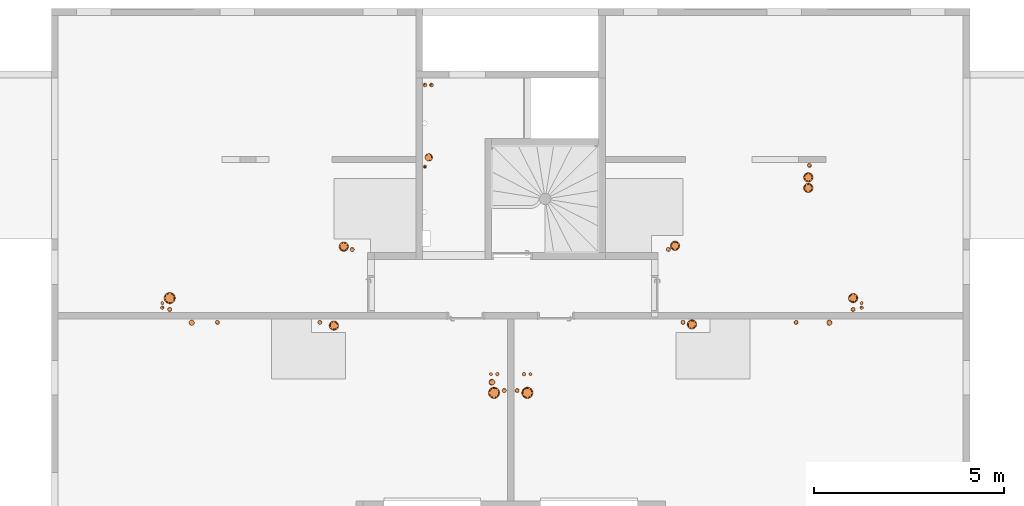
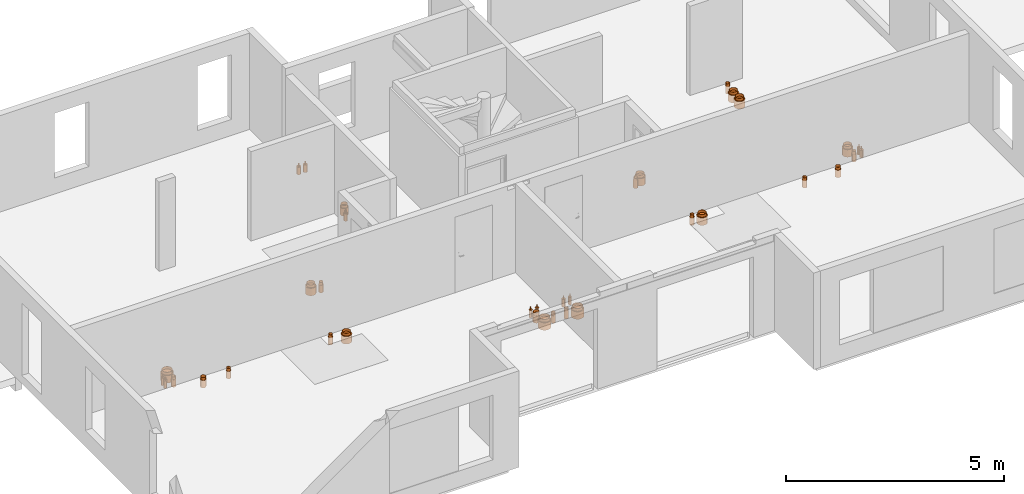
# One storey, part 21 of 24: 36 proxies.
"""IFC2X3 building model written with IfcOpenShell, lengths in centimetres."""

import ifcopenshell
import ifcopenshell.guid

model = None  # the IFC model being written
_history = None  # IfcOwnerHistory: only IFC2X3 demands one
_inside = {}  # id of a spatial element -> (the spatial element, [elements in it])
_under = {}  # id of a project, library or spatial element -> (it, [spatial elements below it])
_declared = {}  # id of a project -> (the project, [libraries it declares])
_typed = {}  # id of a type object -> (the type object, [elements of that type])
_made_of = {}  # id of a material, layer set ... -> (it, [elements and type objects made of it])


def new_model(schema):
    """Start an empty IFC model of exactly this schema.

    Asked for "IFC4X3", IfcOpenShell would pick the latest addendum, in which some entities
    have other attributes; the version numbers below select the first issue.
    IFC2X3 requires an IfcOwnerHistory on every rooted entity: one is made here for all.
    """
    global model, _history
    if schema == "IFC4X3":
        model = ifcopenshell.file(schema_version=(4, 3, 0, 0))
    else:
        model = ifcopenshell.file(schema=schema)
    _inside.clear()
    _under.clear()
    _declared.clear()
    _typed.clear()
    _made_of.clear()
    _history = None
    if model.schema == "IFC2X3":
        org = make("IfcOrganization", Name="unknown")
        user = make(
            "IfcPersonAndOrganization",
            ThePerson=make("IfcPerson", FamilyName="unknown"),
            TheOrganization=org,
        )
        app = make(
            "IfcApplication",
            ApplicationDeveloper=org,
            Version="unknown",
            ApplicationFullName="unknown",
            ApplicationIdentifier="unknown",
        )
        _history = make(
            "IfcOwnerHistory",
            OwningUser=user,
            OwningApplication=app,
            ChangeAction="ADDED",
            CreationDate=0,
        )
    return model


def make(cls, **values):
    """One entity of the class cls with the attributes given. An attribute that is None is left unset."""
    return model.create_entity(
        cls, **{name: value for name, value in values.items() if value is not None}
    )


def entity(cls, *values):
    """Any entity or typed value of the class cls, its attributes in the order of the schema. None: left unset."""
    e = model.create_entity(cls)
    for i, value in enumerate(values):
        if value is not None:
            e[i] = value
    return e


def rooted(cls, **values):
    """An entity with a GlobalId (a new one), such as an element, a storey or a relation."""
    return make(cls, GlobalId=ifcopenshell.guid.new(), OwnerHistory=_history, **values)


def si_unit(unit_type, name, prefix=None):
    """IfcSIUnit, for example si_unit("LENGTHUNIT", "METRE", prefix="MILLI")."""
    return make("IfcSIUnit", UnitType=unit_type, Prefix=prefix, Name=name)


def converted_unit(unit_type, name, factor, base, dimensions=None, offset=None):
    """IfcConversionBasedUnit, such as the inch: factor (a typed value) times the base unit."""
    return make(
        "IfcConversionBasedUnit"
        if offset is None
        else "IfcConversionBasedUnitWithOffset",
        ConversionOffset=offset,
        Dimensions=None
        if dimensions is None
        else entity("IfcDimensionalExponents", *dimensions),
        UnitType=unit_type,
        Name=name,
        ConversionFactor=make(
            "IfcMeasureWithUnit", ValueComponent=factor, UnitComponent=base
        ),
    )


def derived_unit(unit_type, elements):
    """IfcDerivedUnit: a product of units, each with its exponent."""
    return make(
        "IfcDerivedUnit",
        Elements=[
            make("IfcDerivedUnitElement", Unit=unit, Exponent=power)
            for unit, power in elements
        ],
        UnitType=unit_type,
    )


def assignment(units):
    """IfcUnitAssignment: the units of a project."""
    return None if units is None else make("IfcUnitAssignment", Units=units)


def point(xyz):
    """IfcCartesianPoint."""
    return None if xyz is None else make("IfcCartesianPoint", Coordinates=xyz)


def direction(xyz):
    """IfcDirection."""
    return None if xyz is None else make("IfcDirection", DirectionRatios=xyz)


def frame(location, z_axis=None, x_axis=None):
    """IfcAxis2Placement3D, a coordinate frame: its origin and axes. An axis left out is left unset."""
    return make(
        "IfcAxis2Placement3D",
        Location=point(location),
        Axis=direction(z_axis),
        RefDirection=direction(x_axis),
    )


def frame_2d(location, x_axis=None):
    """IfcAxis2Placement2D, a coordinate frame in the plane: its origin and x axis."""
    return make(
        "IfcAxis2Placement2D", Location=point(location), RefDirection=direction(x_axis)
    )


def origin():
    """The frame at (0, 0, 0) with its axes left unset."""
    return frame((0.0, 0.0, 0.0))


def place(relative_to, where):
    """IfcLocalPlacement: puts the frame where relative to a parent placement (None: the world)."""
    return make(
        "IfcLocalPlacement", PlacementRelTo=relative_to, RelativePlacement=where
    )


def context(
    kind, dimensions, precision=None, world=None, true_north=None, identifier=None
):
    """IfcGeometricRepresentationContext, for example the 3D "Model" context."""
    return make(
        "IfcGeometricRepresentationContext",
        ContextIdentifier=identifier,
        ContextType=kind,
        CoordinateSpaceDimension=dimensions,
        Precision=precision,
        WorldCoordinateSystem=world,
        TrueNorth=true_north,
    )


def subcontext(parent, identifier, kind, view, scale=None):
    """IfcGeometricRepresentationSubContext, for example "Body" below "Model"."""
    return make(
        "IfcGeometricRepresentationSubContext",
        ContextIdentifier=identifier,
        ContextType=kind,
        ParentContext=parent,
        TargetScale=scale,
        TargetView=view,
    )


def project(units=None, contexts=None):
    """IfcProject with its units and contexts."""
    return rooted(
        "IfcProject",
        Name="project",
        RepresentationContexts=contexts,
        UnitsInContext=assignment(units),
    )


def spatial(cls, under=None, at=None, **own):
    """A site, building, storey or space (cls), placed at a placement, below another one or the project."""
    s = rooted(cls, ObjectPlacement=at, **own)
    if under is not None:
        _under.setdefault(under.id(), (under, []))[1].append(s)
    return s


def profile(cls, at=None, kind="AREA", **sizes):
    """A parametric profile (cls). Its sizes go by their IFC names, for example OverallWidth=200.0."""
    return make(cls, ProfileType=kind, Position=at, **sizes)


def circle(**sizes):
    """IfcCircleProfileDef."""
    return profile("IfcCircleProfileDef", **sizes)


def hollow_circle(**sizes):
    """IfcCircleHollowProfileDef."""
    return profile("IfcCircleHollowProfileDef", **sizes)


def extrude(swept, where, along, depth):
    """IfcExtrudedAreaSolid: the profile swept, set in the frame where, extruded along a direction by depth."""
    return make(
        "IfcExtrudedAreaSolid",
        SweptArea=swept,
        Position=where,
        ExtrudedDirection=direction(along),
        Depth=depth,
    )


def shape(context_of_items, identifier, shape_type, items):
    """IfcShapeRepresentation: the items that make up one representation, for example the "Body"."""
    return make(
        "IfcShapeRepresentation",
        ContextOfItems=context_of_items,
        RepresentationIdentifier=identifier,
        RepresentationType=shape_type,
        Items=items,
    )


def source(mapping_origin, context_of_items, identifier, shape_type, items):
    """IfcRepresentationMap: a shape defined once, which mapped items show again and again."""
    return make(
        "IfcRepresentationMap",
        MappingOrigin=mapping_origin,
        MappedRepresentation=shape(context_of_items, identifier, shape_type, items),
    )


def transform(
    local_origin,
    x_axis=None,
    y_axis=None,
    z_axis=None,
    scale=None,
    scale2=None,
    scale3=None,
    uniform=True,
):
    """IfcCartesianTransformationOperator3D, or its non-uniform kind. x_axis, y_axis, z_axis: its Axis1, 2, 3."""
    if uniform:
        return make(
            "IfcCartesianTransformationOperator3D",
            Axis1=direction(x_axis),
            Axis2=direction(y_axis),
            LocalOrigin=point(local_origin),
            Scale=scale,
            Axis3=direction(z_axis),
        )
    return make(
        "IfcCartesianTransformationOperator3DnonUniform",
        Axis1=direction(x_axis),
        Axis2=direction(y_axis),
        LocalOrigin=point(local_origin),
        Scale=scale,
        Axis3=direction(z_axis),
        Scale2=scale2,
        Scale3=scale3,
    )


def mapped(mapping_source, mapping_target):
    """IfcMappedItem: shows the shape of a source again, moved by a transform."""
    return make(
        "IfcMappedItem", MappingSource=mapping_source, MappingTarget=mapping_target
    )


def material(Name=None, Category=None):
    """IfcMaterial."""
    return make("IfcMaterial", Name=Name, Category=Category)


def made_of(thing, what):
    """Note that an element or type object is made of a material, layer set ...; save() writes the relation."""
    if what is not None:
        _made_of.setdefault(what.id(), (what, []))[1].append(thing)
    return thing


def type_object(cls, material=None, **own):
    """A type object (cls), such as IfcWallType, which elements share."""
    return made_of(rooted(cls, **own), material)


def type_shapes(of_type, sources):
    """Give a type object the sources (RepresentationMaps) that its elements show as mapped items."""
    of_type.RepresentationMaps = sources


def element(
    cls,
    number,
    at=None,
    inside=None,
    cuts=None,
    type_object=None,
    material=None,
    context=None,
    identifier="Body",
    shape_type=None,
    held_by="IfcProductDefinitionShape",
    body=None,
    shapes=None,
    **own,
):
    """One element of the class cls, such as IfcWall. Its Tag is "e" and its number.

    at: its placement. inside: the storey or other place that contains it. cuts: it is an
    opening in that element (IfcRelVoidsElement). A single representation is given by context,
    identifier, shape_type and body (its items); several are given by shapes. held_by: the class
    of the entity that holds the representations. save() writes the other relations.
    """
    e = rooted(cls, Tag="e%d" % number, ObjectPlacement=at, **own)
    if body is not None:
        shapes = [shape(context, identifier, shape_type, body)]
    if shapes is not None:
        e.Representation = make(held_by, Representations=shapes)
    if inside is not None:
        _inside.setdefault(inside.id(), (inside, []))[1].append(e)
    if cuts is not None:
        rooted(
            "IfcRelVoidsElement", RelatingBuildingElement=cuts, RelatedOpeningElement=e
        )
    if type_object is not None:
        _typed.setdefault(type_object.id(), (type_object, []))[1].append(e)
    return made_of(e, material)


def aggregate(whole, parts):
    """IfcRelAggregates: a whole, such as a stair, and the parts it consists of."""
    return rooted("IfcRelAggregates", RelatingObject=whole, RelatedObjects=parts)


def save(model, path):
    """Write the relations noted so far, then the file.

    IfcRelAggregates (storeys below a building ...), IfcRelContainedInSpatialStructure (elements
    in a storey), IfcRelDefinesByType, IfcRelAssociatesMaterial and IfcRelDeclares: one each for
    every whole, place, type object, material and project.
    """
    for whole, parts in _under.values():
        aggregate(whole, parts)
    for where, things in _inside.values():
        rooted(
            "IfcRelContainedInSpatialStructure",
            RelatedElements=things,
            RelatingStructure=where,
        )
    for kind, things in _typed.values():
        rooted("IfcRelDefinesByType", RelatedObjects=things, RelatingType=kind)
    for what, things in _made_of.values():
        rooted("IfcRelAssociatesMaterial", RelatedObjects=things, RelatingMaterial=what)
    for by, libraries in _declared.values():
        rooted("IfcRelDeclares", RelatingContext=by, RelatedDefinitions=libraries)
    model.write(path)


model = new_model("IFC2X3")

# Units and contexts
model_context = context("Model", 3, precision=0.001, world=origin(), true_north=direction((6.12303176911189e-17, 1.0)))
body_context = subcontext(model_context, "Body", "Model", "MODEL_VIEW")
ifc_project = project(units=[si_unit("LENGTHUNIT", "METRE", prefix="CENTI"), si_unit("AREAUNIT", "SQUARE_METRE"), si_unit("VOLUMEUNIT", "CUBIC_METRE"), converted_unit("PLANEANGLEUNIT", "DEGREE", entity("IfcRatioMeasure", 0.0174532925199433), si_unit("PLANEANGLEUNIT", "RADIAN"), dimensions=[0, 0, 0, 0, 0, 0, 0]), si_unit("MASSUNIT", "GRAM", prefix="KILO"), derived_unit("MASSDENSITYUNIT", [(si_unit("MASSUNIT", "GRAM", prefix="KILO"), 1), (si_unit("LENGTHUNIT", "METRE"), -3)]), si_unit("TIMEUNIT", "SECOND"), si_unit("FREQUENCYUNIT", "HERTZ"), si_unit("THERMODYNAMICTEMPERATUREUNIT", "DEGREE_CELSIUS"), derived_unit("THERMALTRANSMITTANCEUNIT", [(si_unit("MASSUNIT", "GRAM", prefix="KILO"), 1), (si_unit("THERMODYNAMICTEMPERATUREUNIT", "KELVIN"), -1), (si_unit("TIMEUNIT", "SECOND"), -3)]), derived_unit("VOLUMETRICFLOWRATEUNIT", [(si_unit("LENGTHUNIT", "METRE"), 3), (si_unit("TIMEUNIT", "SECOND"), -1)]), si_unit("ELECTRICCURRENTUNIT", "AMPERE"), si_unit("ELECTRICVOLTAGEUNIT", "VOLT"), si_unit("POWERUNIT", "WATT"), si_unit("FORCEUNIT", "NEWTON"), si_unit("ILLUMINANCEUNIT", "LUX"), si_unit("LUMINOUSFLUXUNIT", "LUMEN"), si_unit("LUMINOUSINTENSITYUNIT", "CANDELA"), derived_unit("USERDEFINED", [(si_unit("MASSUNIT", "GRAM", prefix="KILO"), -1), (si_unit("LENGTHUNIT", "METRE"), -2), (si_unit("TIMEUNIT", "SECOND"), 3), (si_unit("LUMINOUSFLUXUNIT", "LUMEN"), 1)]), derived_unit("LINEARVELOCITYUNIT", [(si_unit("LENGTHUNIT", "METRE"), 1), (si_unit("TIMEUNIT", "SECOND"), -1)]), si_unit("PRESSUREUNIT", "PASCAL"), derived_unit("USERDEFINED", [(si_unit("LENGTHUNIT", "METRE"), -2), (si_unit("MASSUNIT", "GRAM", prefix="KILO"), 1), (si_unit("TIMEUNIT", "SECOND"), -2)])], contexts=[model_context])

# Site, building, storey
site_placement = place(None, origin())
site = spatial("IfcSite", under=ifc_project, at=site_placement, Name="Default", CompositionType="ELEMENT")
building_placement = place(site_placement, origin())
building = spatial("IfcBuilding", under=site, at=building_placement, Name="CAGE 03", CompositionType="ELEMENT")
storey_placement = place(building_placement, frame((0.0, 0.0, 880.0)))
storey = spatial("IfcBuildingStorey", under=building, at=storey_placement, Name="R+3", CompositionType="ELEMENT", Elevation=880.0)

# Proxies
ifc_material_1 = material(Name="Conduit EU")
building_element_proxy_type_1 = type_object("IfcBuildingElementProxyType", Name="CFO125 P110", PredefinedType="NOTDEFINED", material=ifc_material_1)
shared_shape_1 = source(origin(), body_context, "Body", "SweptSolid", [
    extrude(circle(Radius=5.5, at=frame_2d((0.0, -8.88549515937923e-15), x_axis=(1.0, 0.0))), frame((0.0, 0.0, -21.0)), (0.0, 0.0, 1.0), 21.0),
    extrude(hollow_circle(Radius=5.0, WallThickness=0.25, at=frame_2d((0.0, -8.07772287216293e-15), x_axis=(1.0, 0.0))), frame((0.0, 0.0, -21.0)), (0.0, 0.0, 1.0), 28.5),
])
type_shapes(building_element_proxy_type_1, [shared_shape_1])
for number, where, name in (
    (1, (7497.12477094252, 4658.66060908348, -4.4699953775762e-07), "Galette - Résa - PVC2:CFO125 P110"),
    (2, (7869.14720305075, 4880.10916521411, -4.4699953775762e-07), "Galette - Résa - PVC2:CFO125 P110"),
    (3, (7984.4508715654, 4500.32488712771, -4.4699953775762e-07), "Galette - Résa - PVC2:CFO125 P110"),
    (4, (7535.77855002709, 4466.36505499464, -4.4699953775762e-07), "Galette - Résa - PVC2:CFO125 P110"),
    (5, (7833.87946784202, 4466.32821753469, -4.4699953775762e-07), "Galette - Résa - PVC2:CFO125 P110"),
    (6, (7098.50805140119, 4286.58036411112, -4.4699953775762e-07), "Galette - Résa - PVC2:CFO125 P110"),
    (7, (7064.37018928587, 4286.58443855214, -4.4699953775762e-07), "Galette - Résa - PVC2:CFO125 P110"),
    (8, (6578.06629120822, 4466.41087994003, -4.4699953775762e-07), "Galette - Résa - PVC2:CFO125 P110"),
    (9, (6308.05703024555, 4466.34830105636, -4.4699953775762e-07), "Galette - Résa - PVC2:CFO125 P110"),
    (10, (6182.19149689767, 4500.35421277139, -4.4699953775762e-07), "Galette - Résa - PVC2:CFO125 P110"),
    (11, (6663.71163151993, 4658.39319282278, -4.4699953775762e-07), "Galette - Résa - PVC2:CFO125 P110"),
):
    element("IfcBuildingElementProxy", number, at=place(storey_placement, frame(where)), inside=storey, type_object=building_element_proxy_type_1, material=ifc_material_1, Name=name, ObjectType="CFO125 P110", context=body_context, shape_type="MappedRepresentation", body=[
        mapped(shared_shape_1, transform((0.0, 0.0, 0.0), scale=1.0)),
    ])
ifc_material_2 = material(Name="Conduit VMC")
building_element_proxy_type_2 = type_object("IfcBuildingElementProxyType", Name="CFO235 P210", PredefinedType="NOTDEFINED", material=ifc_material_2)
shared_shape_2 = source(origin(), body_context, "Body", "SweptSolid", [
    extrude(circle(Radius=12.5, at=frame_2d((0.0, -2.01943071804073e-14), x_axis=(1.0, 0.0))), frame((0.0, 0.0, -21.0)), (0.0, 0.0, 1.0), 21.0),
    extrude(hollow_circle(Radius=10.0, WallThickness=0.5, at=frame_2d((0.0, -1.61554457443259e-14), x_axis=(1.0, 0.0))), frame((0.0, 0.0, -21.0)), (0.0, 0.0, 1.0), 28.5),
])
type_shapes(building_element_proxy_type_2, [shared_shape_2])
for number, where, name in (
    (12, (7514.74923080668, 4668.31646675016, -4.4699953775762e-07), "Galette - Résa - PVC2:CFO235 P210"),
    (13, (7866.12110627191, 4848.9015173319, -4.4699953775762e-07), "Galette - Résa - PVC2:CFO235 P210"),
    (14, (7866.12110627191, 4820.81133445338, -4.4699953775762e-07), "Galette - Résa - PVC2:CFO235 P210"),
    (15, (7984.4508715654, 4530.34740146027, -4.4699953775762e-07), "Galette - Résa - PVC2:CFO235 P210"),
    (16, (7559.2488384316, 4460.96671430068, -4.4699953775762e-07), "Galette - Résa - PVC2:CFO235 P210"),
    (17, (6615.21171708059, 4457.86905232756, -4.4699953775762e-07), "Galette - Résa - PVC2:CFO235 P210"),
    (18, (6641.21764726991, 4665.89258907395, -4.4699953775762e-07), "Galette - Résa - PVC2:CFO235 P210"),
):
    element("IfcBuildingElementProxy", number, at=place(storey_placement, frame(where)), inside=storey, type_object=building_element_proxy_type_2, material=ifc_material_2, Name=name, ObjectType="CFO235 P210", context=body_context, shape_type="MappedRepresentation", body=[
        mapped(shared_shape_2, transform((0.0, 0.0, 0.0), scale=1.0)),
    ])
ifc_material_3 = material(Name="Circuit ECS Retour")
building_element_proxy_type_3 = type_object("IfcBuildingElementProxyType", Name="CFO100 P80", PredefinedType="NOTDEFINED", material=ifc_material_3)
shared_shape_3 = source(origin(), body_context, "Body", "SweptSolid", [
    extrude(circle(Radius=4.0, at=frame_2d((0.0, -6.46217829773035e-15), x_axis=(1.0, 0.0))), frame((0.0, 0.0, -21.0)), (0.0, 0.0, 1.0), 21.0),
    extrude(hollow_circle(Radius=1.0, WallThickness=0.0500000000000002, at=frame_2d((0.0, -1.61554457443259e-15), x_axis=(1.0, 0.0))), frame((0.0, 0.0, -21.0)), (0.0, 0.0, 1.0), 28.5),
])
type_shapes(building_element_proxy_type_3, [shared_shape_3])
for number, where, name in (
    (19, (8007.04479855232, 4517.07558993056, -4.4699953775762e-07), "Galette - Résa - PVC2:CFO100 P80"),
    (20, (7133.44860425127, 4329.86526421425, -4.4699953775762e-07), "Galette - Résa - PVC2:CFO100 P80"),
    (21, (7029.26768929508, 4329.86526421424, -4.4699953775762e-07), "Galette - Résa - PVC2:CFO100 P80"),
    (22, (6162.6777389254, 4517.07558993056, -4.4699953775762e-07), "Galette - Résa - PVC2:CFO100 P80"),
):
    element("IfcBuildingElementProxy", number, at=place(storey_placement, frame(where)), inside=storey, type_object=building_element_proxy_type_3, material=ifc_material_3, Name=name, ObjectType="CFO100 P80", context=body_context, shape_type="MappedRepresentation", body=[
        mapped(shared_shape_3, transform((0.0, 0.0, 0.0), scale=1.0)),
    ])
ifc_material_4 = material(Name="Circuit ECS Aller")
building_element_proxy_type_4 = type_object("IfcBuildingElementProxyType", Name="CFO100 P90", PredefinedType="NOTDEFINED", material=ifc_material_4)
shared_shape_4 = source(origin(), body_context, "Body", "SweptSolid", [
    extrude(circle(Radius=4.5, at=frame_2d((0.0, -7.26995058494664e-15), x_axis=(1.0, 0.0))), frame((0.0, 0.0, -21.0)), (0.0, 0.0, 1.0), 21.0),
    extrude(hollow_circle(Radius=1.6, WallThickness=0.05, at=frame_2d((0.0, -2.58487131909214e-15), x_axis=(1.0, 0.0))), frame((0.0, 0.0, -21.0)), (0.0, 0.0, 1.0), 28.5),
])
type_shapes(building_element_proxy_type_4, [shared_shape_4])
for number, where, name in (
    (23, (8007.04479855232, 4505.23903904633, -4.4699953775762e-07), "Galette - Résa - PVC2:CFO100 P90"),
    (24, (7046.26768929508, 4329.86526421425, -4.4699953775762e-07), "Galette - Résa - PVC2:CFO100 P90"),
    (25, (7116.44860425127, 4329.86526421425, -4.4699953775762e-07), "Galette - Résa - PVC2:CFO100 P90"),
    (26, (6162.6777389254, 4505.23903904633, -4.4699953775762e-07), "Galette - Résa - PVC2:CFO100 P90"),
):
    element("IfcBuildingElementProxy", number, at=place(storey_placement, frame(where)), inside=storey, type_object=building_element_proxy_type_4, material=ifc_material_4, Name=name, ObjectType="CFO100 P90", context=body_context, shape_type="MappedRepresentation", body=[
        mapped(shared_shape_4, transform((0.0, 0.0, 0.0), scale=1.0)),
    ])
building_element_proxy_type_5 = type_object("IfcBuildingElementProxyType", Name="CFO285 P260", PredefinedType="NOTDEFINED", material=ifc_material_2)
shared_shape_5 = source(origin(), body_context, "Body", "SweptSolid", [
    extrude(circle(Radius=15.0, at=frame_2d((0.0, -2.42331686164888e-14), x_axis=(1.0, 0.0))), frame((0.0, 0.0, -21.0)), (0.0, 0.0, 1.0), 21.0),
    extrude(hollow_circle(Radius=12.5, WallThickness=0.499999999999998, at=frame_2d((0.0, -2.01943071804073e-14), x_axis=(1.0, 0.0))), frame((0.0, 0.0, -21.0)), (0.0, 0.0, 1.0), 28.5),
])
type_shapes(building_element_proxy_type_5, [shared_shape_5])
for number, where, name in (
    (27, (7037.61602078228, 4280.58090900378, -4.4699953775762e-07), "Galette - Résa - PVC2:CFO285 P260"),
    (28, (7125.26139128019, 4280.58090900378, -4.4699953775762e-07), "Galette - Résa - PVC2:CFO285 P260"),
    (29, (6182.19149689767, 4530.34782251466, -4.4699953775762e-07), "Galette - Résa - PVC2:CFO285 P260"),
):
    element("IfcBuildingElementProxy", number, at=place(storey_placement, frame(where)), inside=storey, type_object=building_element_proxy_type_5, material=ifc_material_2, Name=name, ObjectType="CFO285 P260", context=body_context, shape_type="MappedRepresentation", body=[
        mapped(shared_shape_5, transform((0.0, 0.0, 0.0), scale=1.0)),
    ])
ifc_material_5 = material(Name="Conduit EP")
building_element_proxy_type_6 = type_object("IfcBuildingElementProxyType", Name="EP 161", PredefinedType="NOTDEFINED", material=ifc_material_5)
shared_shape_6 = source(origin(), body_context, "Body", "SweptSolid", [
    extrude(circle(Radius=10.0, at=frame_2d((0.0, -1.61554457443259e-14), x_axis=(1.0, 0.0))), frame((0.0, 0.0, -21.0)), (0.0, 0.0, 1.0), 21.0),
    extrude(hollow_circle(Radius=8.0, WallThickness=0.250000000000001, at=frame_2d((0.0, -1.29243565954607e-14), x_axis=(1.0, 0.0))), frame((0.0, 0.0, -21.0)), (0.0, 0.0, 1.0), 28.5),
])
type_shapes(building_element_proxy_type_6, [shared_shape_6])
proxy_1_placement = place(storey_placement, frame((6865.50026930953, 4901.35358864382, -4.4699953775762e-07)))
element("IfcBuildingElementProxy", 30, at=proxy_1_placement, inside=storey, type_object=building_element_proxy_type_6, material=ifc_material_5, Name="Galette - Résa - PVC2:EP 161", ObjectType="EP 161", context=body_context, shape_type="MappedRepresentation", body=[
    mapped(shared_shape_6, transform((0.0, 0.0, 0.0), scale=1.0)),
])
ifc_material_6 = material(Name="Circuit CHF Aller")
building_element_proxy_type_7 = type_object("IfcBuildingElementProxyType", Name="CHF Aller 41", PredefinedType="NOTDEFINED", material=ifc_material_6)
shared_shape_7 = source(origin(), body_context, "Body", "SweptSolid", [
    extrude(circle(Radius=5.0, at=frame_2d((0.0, -8.07772287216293e-15), x_axis=(1.0, 0.0))), frame((0.0, 0.0, -21.0)), (0.0, 0.0, 1.0), 21.0),
    extrude(hollow_circle(Radius=2.0, WallThickness=0.4, at=frame_2d((0.0, -3.23108914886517e-15), x_axis=(1.0, 0.0))), frame((0.0, 0.0, -21.0)), (0.0, 0.0, 1.0), 28.5),
])
type_shapes(building_element_proxy_type_7, [shared_shape_7])
proxy_2_placement = place(storey_placement, frame((6872.36582014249, 5092.3606660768, -4.4699953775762e-07)))
element("IfcBuildingElementProxy", 31, at=proxy_2_placement, inside=storey, type_object=building_element_proxy_type_7, material=ifc_material_6, Name="Galette - Résa - PVC2:CHF Aller 41", ObjectType="CHF Aller 41", context=body_context, shape_type="MappedRepresentation", body=[
    mapped(shared_shape_7, transform((0.0, 0.0, 0.0), scale=1.0)),
])
ifc_material_7 = material(Name="Circuit CHF Retour")
building_element_proxy_type_8 = type_object("IfcBuildingElementProxyType", Name="CHF Retour 43", PredefinedType="NOTDEFINED", material=ifc_material_7)
shared_shape_8 = source(origin(), body_context, "Body", "SweptSolid", [
    extrude(circle(Radius=5.0, at=frame_2d((0.0, -8.07772287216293e-15), x_axis=(1.0, 0.0))), frame((0.0, 0.0, -21.0)), (0.0, 0.0, 1.0), 21.0),
    extrude(hollow_circle(Radius=2.0, WallThickness=0.4, at=frame_2d((0.0, -3.23108914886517e-15), x_axis=(1.0, 0.0))), frame((0.0, 0.0, -21.0)), (0.0, 0.0, 1.0), 28.5),
])
type_shapes(building_element_proxy_type_8, [shared_shape_8])
proxy_3_placement = place(storey_placement, frame((6855.36582014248, 5092.3606660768, -4.4699953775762e-07)))
element("IfcBuildingElementProxy", 32, at=proxy_3_placement, inside=storey, type_object=building_element_proxy_type_8, material=ifc_material_7, Name="Galette - Résa - PVC2:CHF Retour 43", ObjectType="CHF Retour 43", context=body_context, shape_type="MappedRepresentation", body=[
    mapped(shared_shape_8, transform((0.0, 0.0, 0.0), scale=1.0)),
])
building_element_proxy_type_9 = type_object("IfcBuildingElementProxyType", Name="CFO140 P135", PredefinedType="NOTDEFINED", material=ifc_material_2)
shared_shape_9 = source(origin(), body_context, "Body", "SweptSolid", [
    extrude(circle(Radius=7.0, at=frame_2d((0.0, -1.13088120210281e-14), x_axis=(1.0, 0.0))), frame((0.0, 0.0, -21.0)), (0.0, 0.0, 1.0), 21.0),
    extrude(hollow_circle(Radius=6.25, WallThickness=0.25, at=frame_2d((0.0, -1.00971535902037e-14), x_axis=(1.0, 0.0))), frame((0.0, 0.0, -21.0)), (0.0, 0.0, 1.0), 28.5),
])
type_shapes(building_element_proxy_type_9, [shared_shape_9])
for number, where, name in (
    (33, (7921.88582014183, 4465.36426071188, -4.4699953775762e-07), "Galette - Résa - PVC2:CFO140 P135"),
    (34, (6240.30982300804, 4465.36426071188, -4.4699953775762e-07), "Galette - Résa - PVC2:CFO140 P135"),
):
    element("IfcBuildingElementProxy", number, at=place(storey_placement, frame(where)), inside=storey, type_object=building_element_proxy_type_9, material=ifc_material_2, Name=name, ObjectType="CFO140 P135", context=body_context, shape_type="MappedRepresentation", body=[
        mapped(shared_shape_9, transform((0.0, 0.0, 0.0), scale=1.0)),
    ])
building_element_proxy_type_10 = type_object("IfcBuildingElementProxyType", Name="CFO160 P150", PredefinedType="NOTDEFINED", material=ifc_material_5)
shared_shape_10 = source(origin(), body_context, "Body", "SweptSolid", [
    extrude(circle(Radius=8.0, at=frame_2d((0.0, -1.29243565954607e-14), x_axis=(1.0, 0.0))), frame((0.0, 0.0, -21.0)), (0.0, 0.0, 1.0), 21.0),
    extrude(hollow_circle(Radius=7.0, WallThickness=0.25, at=frame_2d((0.0, -1.13088120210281e-14), x_axis=(1.0, 0.0))), frame((0.0, 0.0, -21.0)), (0.0, 0.0, 1.0), 28.5),
])
type_shapes(building_element_proxy_type_10, [shared_shape_10])
proxy_4_placement = place(storey_placement, frame((7031.90297713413, 4308.4720260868, -4.4699953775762e-07)))
element("IfcBuildingElementProxy", 35, at=proxy_4_placement, inside=storey, type_object=building_element_proxy_type_10, material=ifc_material_5, Name="Galette - Résa - PVC2:CFO160 P150", ObjectType="CFO160 P150", context=body_context, shape_type="MappedRepresentation", body=[
    mapped(shared_shape_10, transform((0.0, 0.0, 0.0), scale=1.0)),
])
ifc_material_8 = material(Name="Circuit EF")
building_element_proxy_type_11 = type_object("IfcBuildingElementProxyType", Name="EF 41", PredefinedType="NOTDEFINED", material=ifc_material_8)
shared_shape_11 = source(origin(), body_context, "Body", "SweptSolid", [
    extrude(circle(Radius=4.5, at=frame_2d((0.0, -7.26995058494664e-15), x_axis=(1.0, 0.0))), frame((0.0, 0.0, -21.0)), (0.0, 0.0, 1.0), 21.0),
    extrude(hollow_circle(Radius=2.2, WallThickness=0.449999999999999, at=frame_2d((0.0, -3.55419806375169e-15), x_axis=(1.0, 0.0))), frame((0.0, 0.0, -21.0)), (0.0, 0.0, 1.0), 28.5),
])
type_shapes(building_element_proxy_type_11, [shared_shape_11])
proxy_5_placement = place(storey_placement, frame((6855.36638671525, 4877.15864997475, -4.4699953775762e-07)))
element("IfcBuildingElementProxy", 36, at=proxy_5_placement, inside=storey, type_object=building_element_proxy_type_11, material=ifc_material_8, Name="Galette - Résa - PVC2:EF 41", ObjectType="EF 41", context=body_context, shape_type="MappedRepresentation", body=[
    mapped(shared_shape_11, transform((0.0, 0.0, 0.0), scale=1.0)),
])

save(model, "model.ifc")
